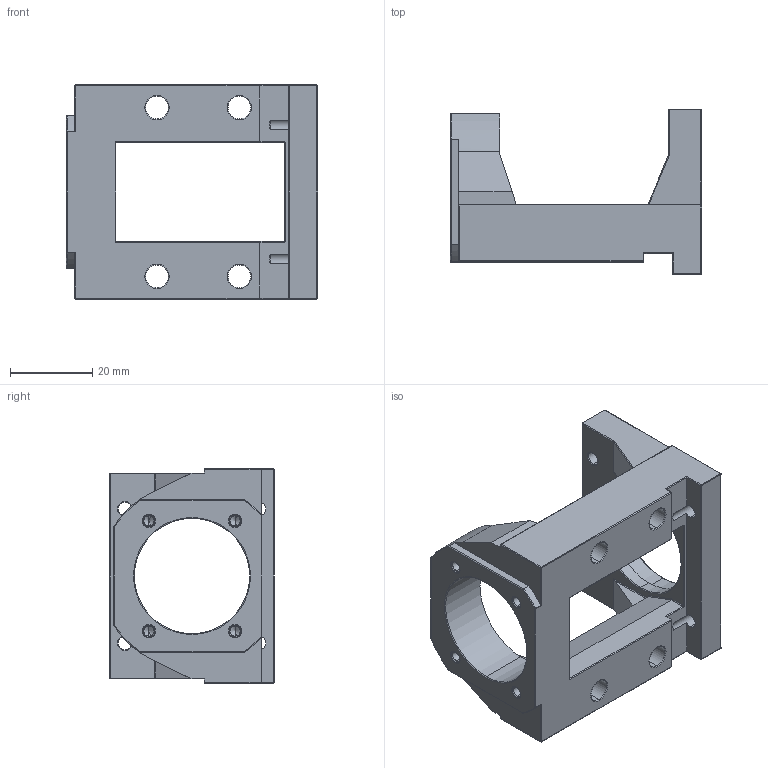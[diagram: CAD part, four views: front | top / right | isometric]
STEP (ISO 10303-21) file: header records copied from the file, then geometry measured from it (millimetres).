
FILE_DESCRIPTION (( 'STEP AP203' ), '1' );
FILE_NAME ('MBA08-B傳動座.STEP', '2017-12-28T05:59:48', ( '' ), ( '' ), 'SwSTEP 2.0', 'SolidWorks 2017', '' );
FILE_SCHEMA (( 'CONFIG_CONTROL_DESIGN' ));
Length unit declared in the file: millimetre
Products named in the file (1): MBA08-B傳動座
Bounding box: 61 x 40 x 52 mm (x, y, z)
Volume: 35629.5 mm3; surface area: 15076 mm2
Topology: 1 solids, 1 shells, 227 faces, 546 edges, 306 vertices
Faces by surface type: cylinder 96, plane 43, torus 42, cone 34, sphere 12
Entity records: 6523 total; most frequent: CARTESIAN_POINT 1204, DIRECTION 1182, ORIENTED_EDGE 1052, EDGE_CURVE 526, AXIS2_PLACEMENT_3D 468, VERTEX_POINT 306, EDGE_LOOP 254, LINE 246
